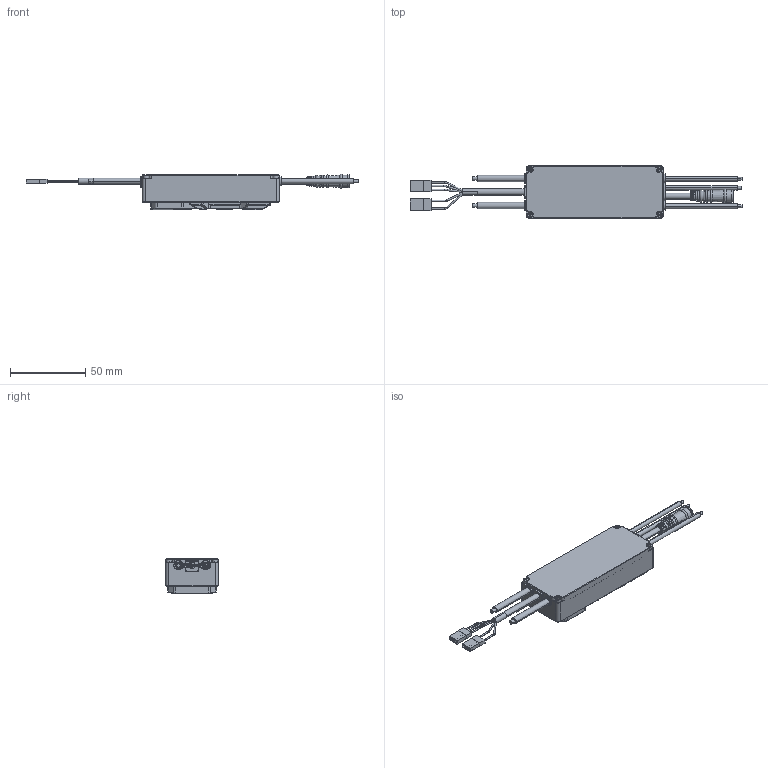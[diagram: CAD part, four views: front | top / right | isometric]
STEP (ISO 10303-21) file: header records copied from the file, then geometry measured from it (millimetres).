
FILE_DESCRIPTION((''),'2;1');
FILE_NAME('HW5141-BLDCFOC-KE','2026-03-18T18:34:34',('Lenovo'),(''),'CREO PARAMETRIC BY PTC INC, 2021284','CREO PARAMETRIC BY PTC INC, 2021284','');
FILE_SCHEMA(('CONFIG_CONTROL_DESIGN','SHAPE_APPEARANCE_LAYERS_GROUPS'));
Length unit declared in the file: millimetre
Products named in the file (1): HW5141-BLDCFOC-KE
Bounding box: 221 x 35 x 23.75 mm (x, y, z)
Volume: 28241.6 mm3; surface area: 32804.8 mm2
Topology: 3 solids, 3 shells, 1368 faces, 3564 edges, 2275 vertices
Faces by surface type: plane 820, cylinder 357, cone 112, torus 53, bspline 26
Entity records: 56257 total; most frequent: CARTESIAN_POINT 10329, ORIENTED_EDGE 7128, DIRECTION 7040, EDGE_CURVE 3564, VECTOR 2526, LINE 2526, VERTEX_POINT 2275, AXIS2_PLACEMENT_3D 2257
